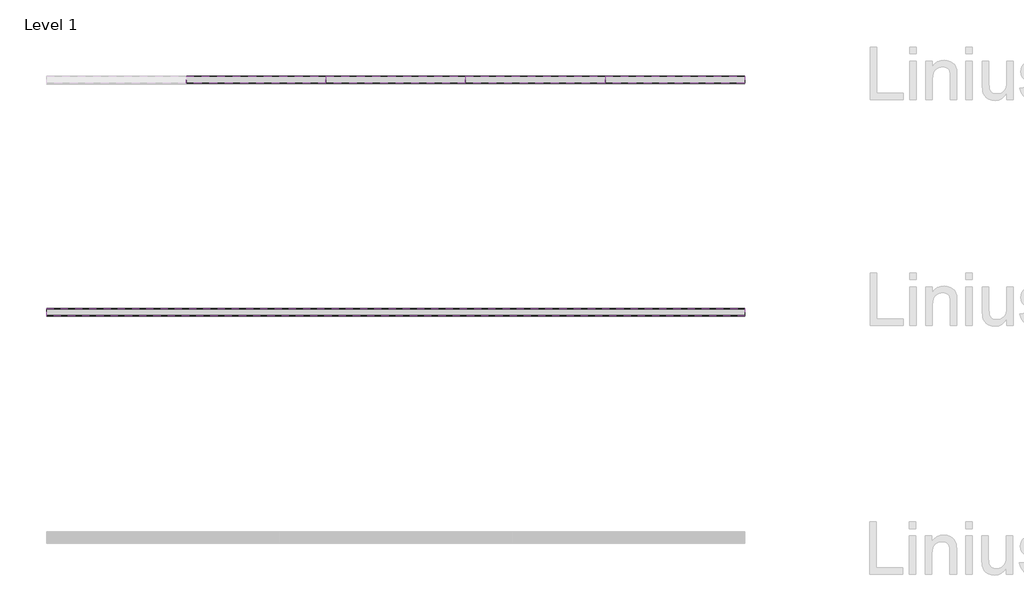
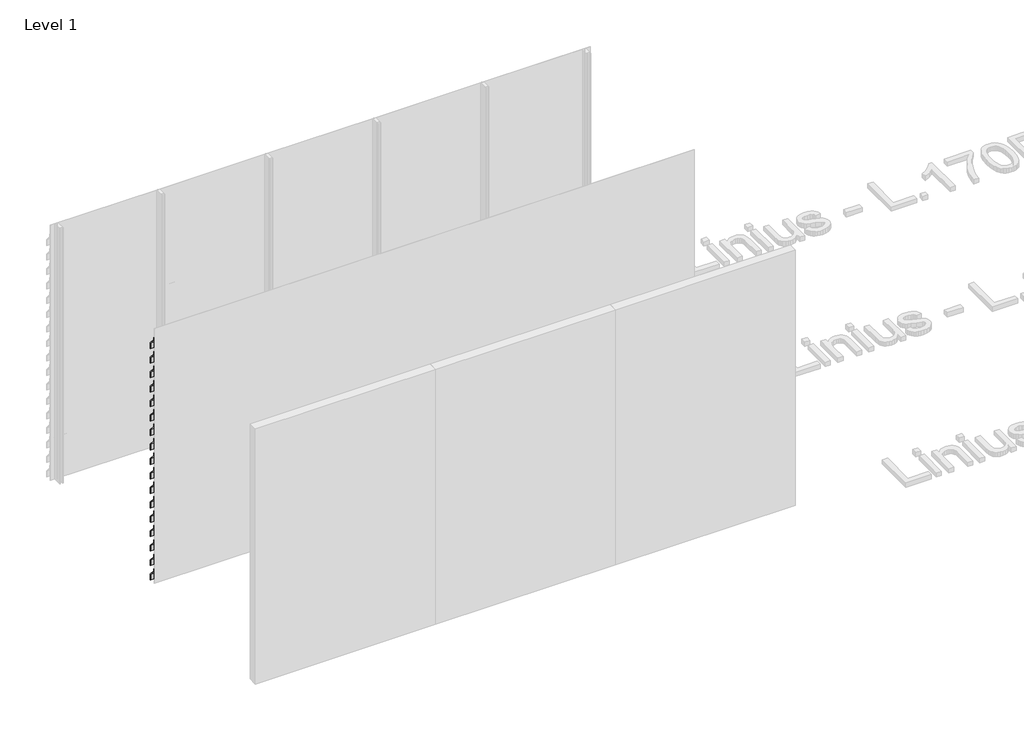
# One storey, part 86 of 121: 78 proxies.
"""IFC4 building model written with IfcOpenShell, lengths in millimetres."""

from ifc_helpers import new_model, si_unit, frame, origin, place, context, project, spatial, polyline, outline, extrude, element, save

model = new_model("IFC4")

# Units and contexts
model_context = context("Model", 3, world=origin())
ifc_project = project(units=[si_unit("LENGTHUNIT", "METRE", prefix="MILLI")], contexts=[model_context])

# Site, building, storey
site = spatial("IfcSite", under=ifc_project)
building = spatial("IfcBuilding", under=site)
storey = spatial("IfcBuildingStorey", under=building, Name="Level 1", Elevation=0.0)

# Proxies
placement = place(None, origin())
element("IfcBuildingElementProxy", 1, Name="Wall Sweeps", at=placement, inside=storey, context=model_context, shape_type="SweptSolid", body=[
    extrude(outline(polyline([(51552.5540136, 1599.0), (51552.5540136, 1530.0), (51550.5540136, 1530.9326153), (51550.5540136, 1598.2698755), (51490.0540136, 1670.0893276), (51490.0540136, 1700.0), (51492.0540136, 1700.0), (51492.0540136, 1670.8194521), (51552.5540136, 1599.0)])), frame((90666.6208099, 0.0, 0.0), z_axis=(1.0, 0.0, 0.0), x_axis=(0.0, 1.0, 0.0)), (0.0, 0.0, 1.0), 1199.9999999),
])
element("IfcBuildingElementProxy", 2, Name="Wall Sweeps", at=placement, inside=storey, context=model_context, shape_type="SweptSolid", body=[
    extrude(outline(polyline([(51552.5540136, 1429.0), (51552.5540136, 1360.0), (51550.5540136, 1360.9326153), (51550.5540136, 1428.2698755), (51490.0540136, 1500.0893276), (51490.0540136, 1530.0), (51492.0540136, 1530.0), (51492.0540136, 1500.8194521), (51552.5540136, 1429.0)])), frame((90666.6208099, 0.0, 0.0), z_axis=(1.0, 0.0, 0.0), x_axis=(0.0, 1.0, 0.0)), (0.0, 0.0, 1.0), 1199.9999999),
])
element("IfcBuildingElementProxy", 3, Name="Wall Sweeps", at=placement, inside=storey, context=model_context, shape_type="SweptSolid", body=[
    extrude(outline(polyline([(51552.5540136, 1259.0), (51552.5540136, 1190.0), (51550.5540136, 1190.9326153), (51550.5540136, 1258.2698755), (51490.0540136, 1330.0893276), (51490.0540136, 1360.0), (51492.0540136, 1360.0), (51492.0540136, 1330.8194521), (51552.5540136, 1259.0)])), frame((90666.6208099, 0.0, 0.0), z_axis=(1.0, 0.0, 0.0), x_axis=(0.0, 1.0, 0.0)), (0.0, 0.0, 1.0), 1199.9999999),
])
element("IfcBuildingElementProxy", 4, Name="Wall Sweeps", at=placement, inside=storey, context=model_context, shape_type="SweptSolid", body=[
    extrude(outline(polyline([(51552.5540136, 1089.0), (51552.5540136, 1020.0), (51550.5540136, 1020.9326153), (51550.5540136, 1088.2698755), (51490.0540136, 1160.0893276), (51490.0540136, 1190.0), (51492.0540136, 1190.0), (51492.0540136, 1160.8194521), (51552.5540136, 1089.0)])), frame((90666.6208099, 0.0, 0.0), z_axis=(1.0, 0.0, 0.0), x_axis=(0.0, 1.0, 0.0)), (0.0, 0.0, 1.0), 1199.9999999),
])
element("IfcBuildingElementProxy", 5, Name="Wall Sweeps", at=placement, inside=storey, context=model_context, shape_type="SweptSolid", body=[
    extrude(outline(polyline([(51552.5540136, 919.0), (51552.5540136, 850.0), (51550.5540136, 850.9326153), (51550.5540136, 918.2698755), (51490.0540136, 990.0893276), (51490.0540136, 1020.0), (51492.0540136, 1020.0), (51492.0540136, 990.8194521), (51552.5540136, 919.0)])), frame((90666.6208099, 0.0, 0.0), z_axis=(1.0, 0.0, 0.0), x_axis=(0.0, 1.0, 0.0)), (0.0, 0.0, 1.0), 1199.9999999),
])
element("IfcBuildingElementProxy", 6, Name="Wall Sweeps", at=placement, inside=storey, context=model_context, shape_type="SweptSolid", body=[
    extrude(outline(polyline([(51552.5540136, 749.0), (51552.5540136, 680.0), (51550.5540136, 680.9326153), (51550.5540136, 748.2698755), (51490.0540136, 820.0893276), (51490.0540136, 850.0), (51492.0540136, 850.0), (51492.0540136, 820.8194521), (51552.5540136, 749.0)])), frame((90666.6208099, 0.0, 0.0), z_axis=(1.0, 0.0, 0.0), x_axis=(0.0, 1.0, 0.0)), (0.0, 0.0, 1.0), 1199.9999999),
])
element("IfcBuildingElementProxy", 7, Name="Wall Sweeps", at=placement, inside=storey, context=model_context, shape_type="SweptSolid", body=[
    extrude(outline(polyline([(51552.5540136, 579.0), (51552.5540136, 510.0), (51550.5540136, 510.9326153), (51550.5540136, 578.2698755), (51490.0540136, 650.0893276), (51490.0540136, 680.0), (51492.0540136, 680.0), (51492.0540136, 650.8194521), (51552.5540136, 579.0)])), frame((90666.6208099, 0.0, 0.0), z_axis=(1.0, 0.0, 0.0), x_axis=(0.0, 1.0, 0.0)), (0.0, 0.0, 1.0), 1199.9999999),
])
element("IfcBuildingElementProxy", 8, Name="Wall Sweeps", at=placement, inside=storey, context=model_context, shape_type="SweptSolid", body=[
    extrude(outline(polyline([(51552.5540136, 409.0), (51552.5540136, 340.0), (51550.5540136, 340.9326153), (51550.5540136, 408.2698755), (51490.0540136, 480.0893276), (51490.0540136, 510.0), (51492.0540136, 510.0), (51492.0540136, 480.8194521), (51552.5540136, 409.0)])), frame((90666.6208099, 0.0, 0.0), z_axis=(1.0, 0.0, 0.0), x_axis=(0.0, 1.0, 0.0)), (0.0, 0.0, 1.0), 1199.9999999),
])
element("IfcBuildingElementProxy", 9, Name="Wall Sweeps", at=placement, inside=storey, context=model_context, shape_type="SweptSolid", body=[
    extrude(outline(polyline([(51552.5540136, 239.0), (51552.5540136, 170.0), (51550.5540136, 170.9326153), (51550.5540136, 238.2698755), (51490.0540136, 310.0893276), (51490.0540136, 340.0), (51492.0540136, 340.0), (51492.0540136, 310.8194521), (51552.5540136, 239.0)])), frame((90666.6208099, 0.0, 0.0), z_axis=(1.0, 0.0, 0.0), x_axis=(0.0, 1.0, 0.0)), (0.0, 0.0, 1.0), 1199.9999999),
])
element("IfcBuildingElementProxy", 10, Name="Wall Sweeps", at=placement, inside=storey, context=model_context, shape_type="SweptSolid", body=[
    extrude(outline(polyline([(51552.5540136, 69.0), (51552.5540136, 0.0), (51550.5540136, 0.9326153), (51550.5540136, 68.2698755), (51490.0540136, 140.0893276), (51490.0540136, 170.0), (51492.0540136, 170.0), (51492.0540136, 140.8194521), (51552.5540136, 69.0)])), frame((90666.6208099, 0.0, 0.0), z_axis=(1.0, 0.0, 0.0), x_axis=(0.0, 1.0, 0.0)), (0.0, 0.0, 1.0), 1199.9999999),
])
element("IfcBuildingElementProxy", 11, Name="Wall Sweeps", at=placement, inside=storey, context=model_context, shape_type="SweptSolid", body=[
    extrude(outline(polyline([(51552.5540136, 2789.0), (51552.5540136, 2720.0), (51550.5540136, 2720.9326153), (51550.5540136, 2788.2698755), (51490.0540136, 2860.0893276), (51490.0540136, 2890.0), (51492.0540136, 2890.0), (51492.0540136, 2860.8194521), (51552.5540136, 2789.0)])), frame((94266.6208095, 0.0, 0.0), z_axis=(1.0, 0.0, 0.0), x_axis=(0.0, 1.0, 0.0)), (0.0, 0.0, 1.0), 1200.0000002),
])
element("IfcBuildingElementProxy", 12, Name="Wall Sweeps", at=placement, inside=storey, context=model_context, shape_type="SweptSolid", body=[
    extrude(outline(polyline([(51552.5540136, 2619.0), (51552.5540136, 2550.0), (51550.5540136, 2550.9326153), (51550.5540136, 2618.2698755), (51490.0540136, 2690.0893276), (51490.0540136, 2720.0), (51492.0540136, 2720.0), (51492.0540136, 2690.8194521), (51552.5540136, 2619.0)])), frame((94266.6208095, 0.0, 0.0), z_axis=(1.0, 0.0, 0.0), x_axis=(0.0, 1.0, 0.0)), (0.0, 0.0, 1.0), 1200.0000002),
])
element("IfcBuildingElementProxy", 13, Name="Wall Sweeps", at=placement, inside=storey, context=model_context, shape_type="SweptSolid", body=[
    extrude(outline(polyline([(51552.5540136, 2449.0), (51552.5540136, 2380.0), (51550.5540136, 2380.9326153), (51550.5540136, 2448.2698755), (51490.0540136, 2520.0893276), (51490.0540136, 2550.0), (51492.0540136, 2550.0), (51492.0540136, 2520.8194521), (51552.5540136, 2449.0)])), frame((94266.6208095, 0.0, 0.0), z_axis=(1.0, 0.0, 0.0), x_axis=(0.0, 1.0, 0.0)), (0.0, 0.0, 1.0), 1200.0000002),
])
element("IfcBuildingElementProxy", 14, Name="Wall Sweeps", at=placement, inside=storey, context=model_context, shape_type="SweptSolid", body=[
    extrude(outline(polyline([(51552.5540136, 2279.0), (51552.5540136, 2210.0), (51550.5540136, 2210.9326153), (51550.5540136, 2278.2698755), (51490.0540136, 2350.0893276), (51490.0540136, 2380.0), (51492.0540136, 2380.0), (51492.0540136, 2350.8194521), (51552.5540136, 2279.0)])), frame((94266.6208095, 0.0, 0.0), z_axis=(1.0, 0.0, 0.0), x_axis=(0.0, 1.0, 0.0)), (0.0, 0.0, 1.0), 1200.0000002),
])
element("IfcBuildingElementProxy", 15, Name="Wall Sweeps", at=placement, inside=storey, context=model_context, shape_type="SweptSolid", body=[
    extrude(outline(polyline([(51552.5540136, 2109.0), (51552.5540136, 2040.0), (51550.5540136, 2040.9326153), (51550.5540136, 2108.2698755), (51490.0540136, 2180.0893276), (51490.0540136, 2210.0), (51492.0540136, 2210.0), (51492.0540136, 2180.8194521), (51552.5540136, 2109.0)])), frame((94266.6208095, 0.0, 0.0), z_axis=(1.0, 0.0, 0.0), x_axis=(0.0, 1.0, 0.0)), (0.0, 0.0, 1.0), 1200.0000002),
])
element("IfcBuildingElementProxy", 16, Name="Wall Sweeps", at=placement, inside=storey, context=model_context, shape_type="SweptSolid", body=[
    extrude(outline(polyline([(51552.5540136, 1939.0), (51552.5540136, 1870.0), (51550.5540136, 1870.9326153), (51550.5540136, 1938.2698755), (51490.0540136, 2010.0893276), (51490.0540136, 2040.0), (51492.0540136, 2040.0), (51492.0540136, 2010.8194521), (51552.5540136, 1939.0)])), frame((94266.6208095, 0.0, 0.0), z_axis=(1.0, 0.0, 0.0), x_axis=(0.0, 1.0, 0.0)), (0.0, 0.0, 1.0), 1200.0000002),
])
element("IfcBuildingElementProxy", 17, Name="Wall Sweeps", at=placement, inside=storey, context=model_context, shape_type="SweptSolid", body=[
    extrude(outline(polyline([(51552.5540136, 1769.0), (51552.5540136, 1700.0), (51550.5540136, 1700.9326153), (51550.5540136, 1768.2698755), (51490.0540136, 1840.0893276), (51490.0540136, 1870.0), (51492.0540136, 1870.0), (51492.0540136, 1840.8194521), (51552.5540136, 1769.0)])), frame((94266.6208095, 0.0, 0.0), z_axis=(1.0, 0.0, 0.0), x_axis=(0.0, 1.0, 0.0)), (0.0, 0.0, 1.0), 1200.0000002),
])
element("IfcBuildingElementProxy", 18, Name="Wall Sweeps", at=placement, inside=storey, context=model_context, shape_type="SweptSolid", body=[
    extrude(outline(polyline([(51552.5540136, 1599.0), (51552.5540136, 1530.0), (51550.5540136, 1530.9326153), (51550.5540136, 1598.2698755), (51490.0540136, 1670.0893276), (51490.0540136, 1700.0), (51492.0540136, 1700.0), (51492.0540136, 1670.8194521), (51552.5540136, 1599.0)])), frame((94266.6208095, 0.0, 0.0), z_axis=(1.0, 0.0, 0.0), x_axis=(0.0, 1.0, 0.0)), (0.0, 0.0, 1.0), 1200.0000002),
])
element("IfcBuildingElementProxy", 19, Name="Wall Sweeps", at=placement, inside=storey, context=model_context, shape_type="SweptSolid", body=[
    extrude(outline(polyline([(51552.5540136, 1429.0), (51552.5540136, 1360.0), (51550.5540136, 1360.9326153), (51550.5540136, 1428.2698755), (51490.0540136, 1500.0893276), (51490.0540136, 1530.0), (51492.0540136, 1530.0), (51492.0540136, 1500.8194521), (51552.5540136, 1429.0)])), frame((94266.6208095, 0.0, 0.0), z_axis=(1.0, 0.0, 0.0), x_axis=(0.0, 1.0, 0.0)), (0.0, 0.0, 1.0), 1200.0000002),
])
element("IfcBuildingElementProxy", 20, Name="Wall Sweeps", at=placement, inside=storey, context=model_context, shape_type="SweptSolid", body=[
    extrude(outline(polyline([(51552.5540136, 1259.0), (51552.5540136, 1190.0), (51550.5540136, 1190.9326153), (51550.5540136, 1258.2698755), (51490.0540136, 1330.0893276), (51490.0540136, 1360.0), (51492.0540136, 1360.0), (51492.0540136, 1330.8194521), (51552.5540136, 1259.0)])), frame((94266.6208095, 0.0, 0.0), z_axis=(1.0, 0.0, 0.0), x_axis=(0.0, 1.0, 0.0)), (0.0, 0.0, 1.0), 1200.0000002),
])
element("IfcBuildingElementProxy", 21, Name="Wall Sweeps", at=placement, inside=storey, context=model_context, shape_type="SweptSolid", body=[
    extrude(outline(polyline([(51552.5540136, 1089.0), (51552.5540136, 1020.0), (51550.5540136, 1020.9326153), (51550.5540136, 1088.2698755), (51490.0540136, 1160.0893276), (51490.0540136, 1190.0), (51492.0540136, 1190.0), (51492.0540136, 1160.8194521), (51552.5540136, 1089.0)])), frame((94266.6208095, 0.0, 0.0), z_axis=(1.0, 0.0, 0.0), x_axis=(0.0, 1.0, 0.0)), (0.0, 0.0, 1.0), 1200.0000002),
])
element("IfcBuildingElementProxy", 22, Name="Wall Sweeps", at=placement, inside=storey, context=model_context, shape_type="SweptSolid", body=[
    extrude(outline(polyline([(51552.5540136, 919.0), (51552.5540136, 850.0), (51550.5540136, 850.9326153), (51550.5540136, 918.2698755), (51490.0540136, 990.0893276), (51490.0540136, 1020.0), (51492.0540136, 1020.0), (51492.0540136, 990.8194521), (51552.5540136, 919.0)])), frame((94266.6208095, 0.0, 0.0), z_axis=(1.0, 0.0, 0.0), x_axis=(0.0, 1.0, 0.0)), (0.0, 0.0, 1.0), 1200.0000002),
])
element("IfcBuildingElementProxy", 23, Name="Wall Sweeps", at=placement, inside=storey, context=model_context, shape_type="SweptSolid", body=[
    extrude(outline(polyline([(51552.5540136, 749.0), (51552.5540136, 680.0), (51550.5540136, 680.9326153), (51550.5540136, 748.2698755), (51490.0540136, 820.0893276), (51490.0540136, 850.0), (51492.0540136, 850.0), (51492.0540136, 820.8194521), (51552.5540136, 749.0)])), frame((94266.6208095, 0.0, 0.0), z_axis=(1.0, 0.0, 0.0), x_axis=(0.0, 1.0, 0.0)), (0.0, 0.0, 1.0), 1200.0000002),
])
element("IfcBuildingElementProxy", 24, Name="Wall Sweeps", at=placement, inside=storey, context=model_context, shape_type="SweptSolid", body=[
    extrude(outline(polyline([(51552.5540136, 579.0), (51552.5540136, 510.0), (51550.5540136, 510.9326153), (51550.5540136, 578.2698755), (51490.0540136, 650.0893276), (51490.0540136, 680.0), (51492.0540136, 680.0), (51492.0540136, 650.8194521), (51552.5540136, 579.0)])), frame((94266.6208095, 0.0, 0.0), z_axis=(1.0, 0.0, 0.0), x_axis=(0.0, 1.0, 0.0)), (0.0, 0.0, 1.0), 1200.0000002),
])
element("IfcBuildingElementProxy", 25, Name="Wall Sweeps", at=placement, inside=storey, context=model_context, shape_type="SweptSolid", body=[
    extrude(outline(polyline([(51552.5540136, 409.0), (51552.5540136, 340.0), (51550.5540136, 340.9326153), (51550.5540136, 408.2698755), (51490.0540136, 480.0893276), (51490.0540136, 510.0), (51492.0540136, 510.0), (51492.0540136, 480.8194521), (51552.5540136, 409.0)])), frame((94266.6208095, 0.0, 0.0), z_axis=(1.0, 0.0, 0.0), x_axis=(0.0, 1.0, 0.0)), (0.0, 0.0, 1.0), 1200.0000002),
])
element("IfcBuildingElementProxy", 26, Name="Wall Sweeps", at=placement, inside=storey, context=model_context, shape_type="SweptSolid", body=[
    extrude(outline(polyline([(51552.5540136, 239.0), (51552.5540136, 170.0), (51550.5540136, 170.9326153), (51550.5540136, 238.2698755), (51490.0540136, 310.0893276), (51490.0540136, 340.0), (51492.0540136, 340.0), (51492.0540136, 310.8194521), (51552.5540136, 239.0)])), frame((94266.6208095, 0.0, 0.0), z_axis=(1.0, 0.0, 0.0), x_axis=(0.0, 1.0, 0.0)), (0.0, 0.0, 1.0), 1200.0000002),
])
element("IfcBuildingElementProxy", 27, Name="Wall Sweeps", at=placement, inside=storey, context=model_context, shape_type="SweptSolid", body=[
    extrude(outline(polyline([(51552.5540136, 69.0), (51552.5540136, 0.0), (51550.5540136, 0.9326153), (51550.5540136, 68.2698755), (51490.0540136, 140.0893276), (51490.0540136, 170.0), (51492.0540136, 170.0), (51492.0540136, 140.8194521), (51552.5540136, 69.0)])), frame((94266.6208095, 0.0, 0.0), z_axis=(1.0, 0.0, 0.0), x_axis=(0.0, 1.0, 0.0)), (0.0, 0.0, 1.0), 1200.0000002),
])
element("IfcBuildingElementProxy", 28, Name="Wall Sweeps", at=placement, inside=storey, context=model_context, shape_type="SweptSolid", body=[
    extrude(outline(polyline([(49552.5540136, 2789.0), (49552.5540136, 2720.0), (49550.5540136, 2720.9326153), (49550.5540136, 2788.2698755), (49490.0540136, 2860.0893276), (49490.0540136, 2890.0), (49492.0540136, 2890.0), (49492.0540136, 2860.8194521), (49552.5540136, 2789.0)])), frame((89466.6208097, 0.0, 0.0), z_axis=(1.0, 0.0, 0.0), x_axis=(0.0, 1.0, 0.0)), (0.0, 0.0, 1.0), 6000.0),
])
element("IfcBuildingElementProxy", 29, Name="Wall Sweeps", at=placement, inside=storey, context=model_context, shape_type="SweptSolid", body=[
    extrude(outline(polyline([(49552.5540136, 2619.0), (49552.5540136, 2550.0), (49550.5540136, 2550.9326153), (49550.5540136, 2618.2698755), (49490.0540136, 2690.0893276), (49490.0540136, 2720.0), (49492.0540136, 2720.0), (49492.0540136, 2690.8194521), (49552.5540136, 2619.0)])), frame((89466.6208097, 0.0, 0.0), z_axis=(1.0, 0.0, 0.0), x_axis=(0.0, 1.0, 0.0)), (0.0, 0.0, 1.0), 6000.0),
])
element("IfcBuildingElementProxy", 30, Name="Wall Sweeps", at=placement, inside=storey, context=model_context, shape_type="SweptSolid", body=[
    extrude(outline(polyline([(49552.5540136, 2449.0), (49552.5540136, 2380.0), (49550.5540136, 2380.9326153), (49550.5540136, 2448.2698755), (49490.0540136, 2520.0893276), (49490.0540136, 2550.0), (49492.0540136, 2550.0), (49492.0540136, 2520.8194521), (49552.5540136, 2449.0)])), frame((89466.6208097, 0.0, 0.0), z_axis=(1.0, 0.0, 0.0), x_axis=(0.0, 1.0, 0.0)), (0.0, 0.0, 1.0), 6000.0),
])
element("IfcBuildingElementProxy", 31, Name="Wall Sweeps", at=placement, inside=storey, context=model_context, shape_type="SweptSolid", body=[
    extrude(outline(polyline([(49552.5540136, 2279.0), (49552.5540136, 2210.0), (49550.5540136, 2210.9326153), (49550.5540136, 2278.2698755), (49490.0540136, 2350.0893276), (49490.0540136, 2380.0), (49492.0540136, 2380.0), (49492.0540136, 2350.8194521), (49552.5540136, 2279.0)])), frame((89466.6208097, 0.0, 0.0), z_axis=(1.0, 0.0, 0.0), x_axis=(0.0, 1.0, 0.0)), (0.0, 0.0, 1.0), 6000.0),
])
element("IfcBuildingElementProxy", 32, Name="Wall Sweeps", at=placement, inside=storey, context=model_context, shape_type="SweptSolid", body=[
    extrude(outline(polyline([(49552.5540136, 2109.0), (49552.5540136, 2040.0), (49550.5540136, 2040.9326153), (49550.5540136, 2108.2698755), (49490.0540136, 2180.0893276), (49490.0540136, 2210.0), (49492.0540136, 2210.0), (49492.0540136, 2180.8194521), (49552.5540136, 2109.0)])), frame((89466.6208097, 0.0, 0.0), z_axis=(1.0, 0.0, 0.0), x_axis=(0.0, 1.0, 0.0)), (0.0, 0.0, 1.0), 6000.0),
])
element("IfcBuildingElementProxy", 33, Name="Wall Sweeps", at=placement, inside=storey, context=model_context, shape_type="SweptSolid", body=[
    extrude(outline(polyline([(49552.5540136, 1939.0), (49552.5540136, 1870.0), (49550.5540136, 1870.9326153), (49550.5540136, 1938.2698755), (49490.0540136, 2010.0893276), (49490.0540136, 2040.0), (49492.0540136, 2040.0), (49492.0540136, 2010.8194521), (49552.5540136, 1939.0)])), frame((89466.6208097, 0.0, 0.0), z_axis=(1.0, 0.0, 0.0), x_axis=(0.0, 1.0, 0.0)), (0.0, 0.0, 1.0), 6000.0),
])
element("IfcBuildingElementProxy", 34, Name="Wall Sweeps", at=placement, inside=storey, context=model_context, shape_type="SweptSolid", body=[
    extrude(outline(polyline([(49552.5540136, 1769.0), (49552.5540136, 1700.0), (49550.5540136, 1700.9326153), (49550.5540136, 1768.2698755), (49490.0540136, 1840.0893276), (49490.0540136, 1870.0), (49492.0540136, 1870.0), (49492.0540136, 1840.8194521), (49552.5540136, 1769.0)])), frame((89466.6208097, 0.0, 0.0), z_axis=(1.0, 0.0, 0.0), x_axis=(0.0, 1.0, 0.0)), (0.0, 0.0, 1.0), 6000.0),
])
element("IfcBuildingElementProxy", 35, Name="Wall Sweeps", at=placement, inside=storey, context=model_context, shape_type="SweptSolid", body=[
    extrude(outline(polyline([(49552.5540136, 1599.0), (49552.5540136, 1530.0), (49550.5540136, 1530.9326153), (49550.5540136, 1598.2698755), (49490.0540136, 1670.0893276), (49490.0540136, 1700.0), (49492.0540136, 1700.0), (49492.0540136, 1670.8194521), (49552.5540136, 1599.0)])), frame((89466.6208097, 0.0, 0.0), z_axis=(1.0, 0.0, 0.0), x_axis=(0.0, 1.0, 0.0)), (0.0, 0.0, 1.0), 6000.0),
])
element("IfcBuildingElementProxy", 36, Name="Wall Sweeps", at=placement, inside=storey, context=model_context, shape_type="SweptSolid", body=[
    extrude(outline(polyline([(49552.5540136, 1429.0), (49552.5540136, 1360.0), (49550.5540136, 1360.9326153), (49550.5540136, 1428.2698755), (49490.0540136, 1500.0893276), (49490.0540136, 1530.0), (49492.0540136, 1530.0), (49492.0540136, 1500.8194521), (49552.5540136, 1429.0)])), frame((89466.6208097, 0.0, 0.0), z_axis=(1.0, 0.0, 0.0), x_axis=(0.0, 1.0, 0.0)), (0.0, 0.0, 1.0), 6000.0),
])
element("IfcBuildingElementProxy", 37, Name="Wall Sweeps", at=placement, inside=storey, context=model_context, shape_type="SweptSolid", body=[
    extrude(outline(polyline([(49552.5540136, 1259.0), (49552.5540136, 1190.0), (49550.5540136, 1190.9326153), (49550.5540136, 1258.2698755), (49490.0540136, 1330.0893276), (49490.0540136, 1360.0), (49492.0540136, 1360.0), (49492.0540136, 1330.8194521), (49552.5540136, 1259.0)])), frame((89466.6208097, 0.0, 0.0), z_axis=(1.0, 0.0, 0.0), x_axis=(0.0, 1.0, 0.0)), (0.0, 0.0, 1.0), 6000.0),
])
element("IfcBuildingElementProxy", 38, Name="Wall Sweeps", at=placement, inside=storey, context=model_context, shape_type="SweptSolid", body=[
    extrude(outline(polyline([(49552.5540136, 1089.0), (49552.5540136, 1020.0), (49550.5540136, 1020.9326153), (49550.5540136, 1088.2698755), (49490.0540136, 1160.0893276), (49490.0540136, 1190.0), (49492.0540136, 1190.0), (49492.0540136, 1160.8194521), (49552.5540136, 1089.0)])), frame((89466.6208097, 0.0, 0.0), z_axis=(1.0, 0.0, 0.0), x_axis=(0.0, 1.0, 0.0)), (0.0, 0.0, 1.0), 6000.0),
])
element("IfcBuildingElementProxy", 39, Name="Wall Sweeps", at=placement, inside=storey, context=model_context, shape_type="SweptSolid", body=[
    extrude(outline(polyline([(49552.5540136, 919.0), (49552.5540136, 850.0), (49550.5540136, 850.9326153), (49550.5540136, 918.2698755), (49490.0540136, 990.0893276), (49490.0540136, 1020.0), (49492.0540136, 1020.0), (49492.0540136, 990.8194521), (49552.5540136, 919.0)])), frame((89466.6208097, 0.0, 0.0), z_axis=(1.0, 0.0, 0.0), x_axis=(0.0, 1.0, 0.0)), (0.0, 0.0, 1.0), 6000.0),
])
element("IfcBuildingElementProxy", 40, Name="Wall Sweeps", at=placement, inside=storey, context=model_context, shape_type="SweptSolid", body=[
    extrude(outline(polyline([(49552.5540136, 749.0), (49552.5540136, 680.0), (49550.5540136, 680.9326153), (49550.5540136, 748.2698755), (49490.0540136, 820.0893276), (49490.0540136, 850.0), (49492.0540136, 850.0), (49492.0540136, 820.8194521), (49552.5540136, 749.0)])), frame((89466.6208097, 0.0, 0.0), z_axis=(1.0, 0.0, 0.0), x_axis=(0.0, 1.0, 0.0)), (0.0, 0.0, 1.0), 6000.0),
])
element("IfcBuildingElementProxy", 41, Name="Wall Sweeps", at=placement, inside=storey, context=model_context, shape_type="SweptSolid", body=[
    extrude(outline(polyline([(49552.5540136, 579.0), (49552.5540136, 510.0), (49550.5540136, 510.9326153), (49550.5540136, 578.2698755), (49490.0540136, 650.0893276), (49490.0540136, 680.0), (49492.0540136, 680.0), (49492.0540136, 650.8194521), (49552.5540136, 579.0)])), frame((89466.6208097, 0.0, 0.0), z_axis=(1.0, 0.0, 0.0), x_axis=(0.0, 1.0, 0.0)), (0.0, 0.0, 1.0), 6000.0),
])
element("IfcBuildingElementProxy", 42, Name="Wall Sweeps", at=placement, inside=storey, context=model_context, shape_type="SweptSolid", body=[
    extrude(outline(polyline([(49552.5540136, 409.0), (49552.5540136, 340.0), (49550.5540136, 340.9326153), (49550.5540136, 408.2698755), (49490.0540136, 480.0893276), (49490.0540136, 510.0), (49492.0540136, 510.0), (49492.0540136, 480.8194521), (49552.5540136, 409.0)])), frame((89466.6208097, 0.0, 0.0), z_axis=(1.0, 0.0, 0.0), x_axis=(0.0, 1.0, 0.0)), (0.0, 0.0, 1.0), 6000.0),
])
element("IfcBuildingElementProxy", 43, Name="Wall Sweeps", at=placement, inside=storey, context=model_context, shape_type="SweptSolid", body=[
    extrude(outline(polyline([(49552.5540136, 239.0), (49552.5540136, 170.0), (49550.5540136, 170.9326153), (49550.5540136, 238.2698755), (49490.0540136, 310.0893276), (49490.0540136, 340.0), (49492.0540136, 340.0), (49492.0540136, 310.8194521), (49552.5540136, 239.0)])), frame((89466.6208097, 0.0, 0.0), z_axis=(1.0, 0.0, 0.0), x_axis=(0.0, 1.0, 0.0)), (0.0, 0.0, 1.0), 6000.0),
])
element("IfcBuildingElementProxy", 44, Name="Wall Sweeps", at=placement, inside=storey, context=model_context, shape_type="SweptSolid", body=[
    extrude(outline(polyline([(49552.5540136, 69.0), (49552.5540136, 0.0), (49550.5540136, 0.9326153), (49550.5540136, 68.2698755), (49490.0540136, 140.0893276), (49490.0540136, 170.0), (49492.0540136, 170.0), (49492.0540136, 140.8194521), (49552.5540136, 69.0)])), frame((89466.6208097, 0.0, 0.0), z_axis=(1.0, 0.0, 0.0), x_axis=(0.0, 1.0, 0.0)), (0.0, 0.0, 1.0), 6000.0),
])
element("IfcBuildingElementProxy", 45, Name="Wall Sweeps", at=placement, inside=storey, context=model_context, shape_type="SweptSolid", body=[
    extrude(outline(polyline([(51552.5540136, 2789.0), (51552.5540136, 2720.0), (51550.5540136, 2720.9326153), (51550.5540136, 2788.2698755), (51490.0540136, 2860.0893276), (51490.0540136, 2890.0), (51492.0540136, 2890.0), (51492.0540136, 2860.8194521), (51552.5540136, 2789.0)])), frame((91866.6208097, 0.0, 0.0), z_axis=(1.0, 0.0, 0.0), x_axis=(0.0, 1.0, 0.0)), (0.0, 0.0, 1.0), 1199.9999999),
])
element("IfcBuildingElementProxy", 46, Name="Wall Sweeps", at=placement, inside=storey, context=model_context, shape_type="SweptSolid", body=[
    extrude(outline(polyline([(51552.5540136, 2619.0), (51552.5540136, 2550.0), (51550.5540136, 2550.9326153), (51550.5540136, 2618.2698755), (51490.0540136, 2690.0893276), (51490.0540136, 2720.0), (51492.0540136, 2720.0), (51492.0540136, 2690.8194521), (51552.5540136, 2619.0)])), frame((91866.6208097, 0.0, 0.0), z_axis=(1.0, 0.0, 0.0), x_axis=(0.0, 1.0, 0.0)), (0.0, 0.0, 1.0), 1199.9999999),
])
element("IfcBuildingElementProxy", 47, Name="Wall Sweeps", at=placement, inside=storey, context=model_context, shape_type="SweptSolid", body=[
    extrude(outline(polyline([(51552.5540136, 2449.0), (51552.5540136, 2380.0), (51550.5540136, 2380.9326153), (51550.5540136, 2448.2698755), (51490.0540136, 2520.0893276), (51490.0540136, 2550.0), (51492.0540136, 2550.0), (51492.0540136, 2520.8194521), (51552.5540136, 2449.0)])), frame((91866.6208097, 0.0, 0.0), z_axis=(1.0, 0.0, 0.0), x_axis=(0.0, 1.0, 0.0)), (0.0, 0.0, 1.0), 1199.9999999),
])
element("IfcBuildingElementProxy", 48, Name="Wall Sweeps", at=placement, inside=storey, context=model_context, shape_type="SweptSolid", body=[
    extrude(outline(polyline([(51552.5540136, 2279.0), (51552.5540136, 2210.0), (51550.5540136, 2210.9326153), (51550.5540136, 2278.2698755), (51490.0540136, 2350.0893276), (51490.0540136, 2380.0), (51492.0540136, 2380.0), (51492.0540136, 2350.8194521), (51552.5540136, 2279.0)])), frame((91866.6208097, 0.0, 0.0), z_axis=(1.0, 0.0, 0.0), x_axis=(0.0, 1.0, 0.0)), (0.0, 0.0, 1.0), 1199.9999999),
])
element("IfcBuildingElementProxy", 49, Name="Wall Sweeps", at=placement, inside=storey, context=model_context, shape_type="SweptSolid", body=[
    extrude(outline(polyline([(51552.5540136, 2109.0), (51552.5540136, 2040.0), (51550.5540136, 2040.9326153), (51550.5540136, 2108.2698755), (51490.0540136, 2180.0893276), (51490.0540136, 2210.0), (51492.0540136, 2210.0), (51492.0540136, 2180.8194521), (51552.5540136, 2109.0)])), frame((91866.6208097, 0.0, 0.0), z_axis=(1.0, 0.0, 0.0), x_axis=(0.0, 1.0, 0.0)), (0.0, 0.0, 1.0), 1199.9999999),
])
element("IfcBuildingElementProxy", 50, Name="Wall Sweeps", at=placement, inside=storey, context=model_context, shape_type="SweptSolid", body=[
    extrude(outline(polyline([(51552.5540136, 1939.0), (51552.5540136, 1870.0), (51550.5540136, 1870.9326153), (51550.5540136, 1938.2698755), (51490.0540136, 2010.0893276), (51490.0540136, 2040.0), (51492.0540136, 2040.0), (51492.0540136, 2010.8194521), (51552.5540136, 1939.0)])), frame((91866.6208097, 0.0, 0.0), z_axis=(1.0, 0.0, 0.0), x_axis=(0.0, 1.0, 0.0)), (0.0, 0.0, 1.0), 1199.9999999),
])
element("IfcBuildingElementProxy", 51, Name="Wall Sweeps", at=placement, inside=storey, context=model_context, shape_type="SweptSolid", body=[
    extrude(outline(polyline([(51552.5540136, 1769.0), (51552.5540136, 1700.0), (51550.5540136, 1700.9326153), (51550.5540136, 1768.2698755), (51490.0540136, 1840.0893276), (51490.0540136, 1870.0), (51492.0540136, 1870.0), (51492.0540136, 1840.8194521), (51552.5540136, 1769.0)])), frame((91866.6208097, 0.0, 0.0), z_axis=(1.0, 0.0, 0.0), x_axis=(0.0, 1.0, 0.0)), (0.0, 0.0, 1.0), 1199.9999999),
])
element("IfcBuildingElementProxy", 52, Name="Wall Sweeps", at=placement, inside=storey, context=model_context, shape_type="SweptSolid", body=[
    extrude(outline(polyline([(51552.5540136, 1599.0), (51552.5540136, 1530.0), (51550.5540136, 1530.9326153), (51550.5540136, 1598.2698755), (51490.0540136, 1670.0893276), (51490.0540136, 1700.0), (51492.0540136, 1700.0), (51492.0540136, 1670.8194521), (51552.5540136, 1599.0)])), frame((91866.6208097, 0.0, 0.0), z_axis=(1.0, 0.0, 0.0), x_axis=(0.0, 1.0, 0.0)), (0.0, 0.0, 1.0), 1199.9999999),
])
element("IfcBuildingElementProxy", 53, Name="Wall Sweeps", at=placement, inside=storey, context=model_context, shape_type="SweptSolid", body=[
    extrude(outline(polyline([(51552.5540136, 1429.0), (51552.5540136, 1360.0), (51550.5540136, 1360.9326153), (51550.5540136, 1428.2698755), (51490.0540136, 1500.0893276), (51490.0540136, 1530.0), (51492.0540136, 1530.0), (51492.0540136, 1500.8194521), (51552.5540136, 1429.0)])), frame((91866.6208097, 0.0, 0.0), z_axis=(1.0, 0.0, 0.0), x_axis=(0.0, 1.0, 0.0)), (0.0, 0.0, 1.0), 1199.9999999),
])
element("IfcBuildingElementProxy", 54, Name="Wall Sweeps", at=placement, inside=storey, context=model_context, shape_type="SweptSolid", body=[
    extrude(outline(polyline([(51552.5540136, 1259.0), (51552.5540136, 1190.0), (51550.5540136, 1190.9326153), (51550.5540136, 1258.2698755), (51490.0540136, 1330.0893276), (51490.0540136, 1360.0), (51492.0540136, 1360.0), (51492.0540136, 1330.8194521), (51552.5540136, 1259.0)])), frame((91866.6208097, 0.0, 0.0), z_axis=(1.0, 0.0, 0.0), x_axis=(0.0, 1.0, 0.0)), (0.0, 0.0, 1.0), 1199.9999999),
])
element("IfcBuildingElementProxy", 55, Name="Wall Sweeps", at=placement, inside=storey, context=model_context, shape_type="SweptSolid", body=[
    extrude(outline(polyline([(51552.5540136, 1089.0), (51552.5540136, 1020.0), (51550.5540136, 1020.9326153), (51550.5540136, 1088.2698755), (51490.0540136, 1160.0893276), (51490.0540136, 1190.0), (51492.0540136, 1190.0), (51492.0540136, 1160.8194521), (51552.5540136, 1089.0)])), frame((91866.6208097, 0.0, 0.0), z_axis=(1.0, 0.0, 0.0), x_axis=(0.0, 1.0, 0.0)), (0.0, 0.0, 1.0), 1199.9999999),
])
element("IfcBuildingElementProxy", 56, Name="Wall Sweeps", at=placement, inside=storey, context=model_context, shape_type="SweptSolid", body=[
    extrude(outline(polyline([(51552.5540136, 919.0), (51552.5540136, 850.0), (51550.5540136, 850.9326153), (51550.5540136, 918.2698755), (51490.0540136, 990.0893276), (51490.0540136, 1020.0), (51492.0540136, 1020.0), (51492.0540136, 990.8194521), (51552.5540136, 919.0)])), frame((91866.6208097, 0.0, 0.0), z_axis=(1.0, 0.0, 0.0), x_axis=(0.0, 1.0, 0.0)), (0.0, 0.0, 1.0), 1199.9999999),
])
element("IfcBuildingElementProxy", 57, Name="Wall Sweeps", at=placement, inside=storey, context=model_context, shape_type="SweptSolid", body=[
    extrude(outline(polyline([(51552.5540136, 749.0), (51552.5540136, 680.0), (51550.5540136, 680.9326153), (51550.5540136, 748.2698755), (51490.0540136, 820.0893276), (51490.0540136, 850.0), (51492.0540136, 850.0), (51492.0540136, 820.8194521), (51552.5540136, 749.0)])), frame((91866.6208097, 0.0, 0.0), z_axis=(1.0, 0.0, 0.0), x_axis=(0.0, 1.0, 0.0)), (0.0, 0.0, 1.0), 1199.9999999),
])
element("IfcBuildingElementProxy", 58, Name="Wall Sweeps", at=placement, inside=storey, context=model_context, shape_type="SweptSolid", body=[
    extrude(outline(polyline([(51552.5540136, 579.0), (51552.5540136, 510.0), (51550.5540136, 510.9326153), (51550.5540136, 578.2698755), (51490.0540136, 650.0893276), (51490.0540136, 680.0), (51492.0540136, 680.0), (51492.0540136, 650.8194521), (51552.5540136, 579.0)])), frame((91866.6208097, 0.0, 0.0), z_axis=(1.0, 0.0, 0.0), x_axis=(0.0, 1.0, 0.0)), (0.0, 0.0, 1.0), 1199.9999999),
])
element("IfcBuildingElementProxy", 59, Name="Wall Sweeps", at=placement, inside=storey, context=model_context, shape_type="SweptSolid", body=[
    extrude(outline(polyline([(51552.5540136, 409.0), (51552.5540136, 340.0), (51550.5540136, 340.9326153), (51550.5540136, 408.2698755), (51490.0540136, 480.0893276), (51490.0540136, 510.0), (51492.0540136, 510.0), (51492.0540136, 480.8194521), (51552.5540136, 409.0)])), frame((91866.6208097, 0.0, 0.0), z_axis=(1.0, 0.0, 0.0), x_axis=(0.0, 1.0, 0.0)), (0.0, 0.0, 1.0), 1199.9999999),
])
element("IfcBuildingElementProxy", 60, Name="Wall Sweeps", at=placement, inside=storey, context=model_context, shape_type="SweptSolid", body=[
    extrude(outline(polyline([(51552.5540136, 239.0), (51552.5540136, 170.0), (51550.5540136, 170.9326153), (51550.5540136, 238.2698755), (51490.0540136, 310.0893276), (51490.0540136, 340.0), (51492.0540136, 340.0), (51492.0540136, 310.8194521), (51552.5540136, 239.0)])), frame((91866.6208097, 0.0, 0.0), z_axis=(1.0, 0.0, 0.0), x_axis=(0.0, 1.0, 0.0)), (0.0, 0.0, 1.0), 1199.9999999),
])
element("IfcBuildingElementProxy", 61, Name="Wall Sweeps", at=placement, inside=storey, context=model_context, shape_type="SweptSolid", body=[
    extrude(outline(polyline([(51552.5540136, 69.0), (51552.5540136, 0.0), (51550.5540136, 0.9326153), (51550.5540136, 68.2698755), (51490.0540136, 140.0893276), (51490.0540136, 170.0), (51492.0540136, 170.0), (51492.0540136, 140.8194521), (51552.5540136, 69.0)])), frame((91866.6208097, 0.0, 0.0), z_axis=(1.0, 0.0, 0.0), x_axis=(0.0, 1.0, 0.0)), (0.0, 0.0, 1.0), 1199.9999999),
])
element("IfcBuildingElementProxy", 62, Name="Wall Sweeps", at=placement, inside=storey, context=model_context, shape_type="SweptSolid", body=[
    extrude(outline(polyline([(51552.5540136, 2789.0), (51552.5540136, 2720.0), (51550.5540136, 2720.9326153), (51550.5540136, 2788.2698755), (51490.0540136, 2860.0893276), (51490.0540136, 2890.0), (51492.0540136, 2890.0), (51492.0540136, 2860.8194521), (51552.5540136, 2789.0)])), frame((93066.6208096, 0.0, 0.0), z_axis=(1.0, 0.0, 0.0), x_axis=(0.0, 1.0, 0.0)), (0.0, 0.0, 1.0), 1199.9999999),
])
element("IfcBuildingElementProxy", 63, Name="Wall Sweeps", at=placement, inside=storey, context=model_context, shape_type="SweptSolid", body=[
    extrude(outline(polyline([(51552.5540136, 2619.0), (51552.5540136, 2550.0), (51550.5540136, 2550.9326153), (51550.5540136, 2618.2698755), (51490.0540136, 2690.0893276), (51490.0540136, 2720.0), (51492.0540136, 2720.0), (51492.0540136, 2690.8194521), (51552.5540136, 2619.0)])), frame((93066.6208096, 0.0, 0.0), z_axis=(1.0, 0.0, 0.0), x_axis=(0.0, 1.0, 0.0)), (0.0, 0.0, 1.0), 1199.9999999),
])
element("IfcBuildingElementProxy", 64, Name="Wall Sweeps", at=placement, inside=storey, context=model_context, shape_type="SweptSolid", body=[
    extrude(outline(polyline([(51552.5540136, 2449.0), (51552.5540136, 2380.0), (51550.5540136, 2380.9326153), (51550.5540136, 2448.2698755), (51490.0540136, 2520.0893276), (51490.0540136, 2550.0), (51492.0540136, 2550.0), (51492.0540136, 2520.8194521), (51552.5540136, 2449.0)])), frame((93066.6208096, 0.0, 0.0), z_axis=(1.0, 0.0, 0.0), x_axis=(0.0, 1.0, 0.0)), (0.0, 0.0, 1.0), 1199.9999999),
])
element("IfcBuildingElementProxy", 65, Name="Wall Sweeps", at=placement, inside=storey, context=model_context, shape_type="SweptSolid", body=[
    extrude(outline(polyline([(51552.5540136, 2279.0), (51552.5540136, 2210.0), (51550.5540136, 2210.9326153), (51550.5540136, 2278.2698755), (51490.0540136, 2350.0893276), (51490.0540136, 2380.0), (51492.0540136, 2380.0), (51492.0540136, 2350.8194521), (51552.5540136, 2279.0)])), frame((93066.6208096, 0.0, 0.0), z_axis=(1.0, 0.0, 0.0), x_axis=(0.0, 1.0, 0.0)), (0.0, 0.0, 1.0), 1199.9999999),
])
element("IfcBuildingElementProxy", 66, Name="Wall Sweeps", at=placement, inside=storey, context=model_context, shape_type="SweptSolid", body=[
    extrude(outline(polyline([(51552.5540136, 2109.0), (51552.5540136, 2040.0), (51550.5540136, 2040.9326153), (51550.5540136, 2108.2698755), (51490.0540136, 2180.0893276), (51490.0540136, 2210.0), (51492.0540136, 2210.0), (51492.0540136, 2180.8194521), (51552.5540136, 2109.0)])), frame((93066.6208096, 0.0, 0.0), z_axis=(1.0, 0.0, 0.0), x_axis=(0.0, 1.0, 0.0)), (0.0, 0.0, 1.0), 1199.9999999),
])
element("IfcBuildingElementProxy", 67, Name="Wall Sweeps", at=placement, inside=storey, context=model_context, shape_type="SweptSolid", body=[
    extrude(outline(polyline([(51552.5540136, 1939.0), (51552.5540136, 1870.0), (51550.5540136, 1870.9326153), (51550.5540136, 1938.2698755), (51490.0540136, 2010.0893276), (51490.0540136, 2040.0), (51492.0540136, 2040.0), (51492.0540136, 2010.8194521), (51552.5540136, 1939.0)])), frame((93066.6208096, 0.0, 0.0), z_axis=(1.0, 0.0, 0.0), x_axis=(0.0, 1.0, 0.0)), (0.0, 0.0, 1.0), 1199.9999999),
])
element("IfcBuildingElementProxy", 68, Name="Wall Sweeps", at=placement, inside=storey, context=model_context, shape_type="SweptSolid", body=[
    extrude(outline(polyline([(51552.5540136, 1769.0), (51552.5540136, 1700.0), (51550.5540136, 1700.9326153), (51550.5540136, 1768.2698755), (51490.0540136, 1840.0893276), (51490.0540136, 1870.0), (51492.0540136, 1870.0), (51492.0540136, 1840.8194521), (51552.5540136, 1769.0)])), frame((93066.6208096, 0.0, 0.0), z_axis=(1.0, 0.0, 0.0), x_axis=(0.0, 1.0, 0.0)), (0.0, 0.0, 1.0), 1199.9999999),
])
element("IfcBuildingElementProxy", 69, Name="Wall Sweeps", at=placement, inside=storey, context=model_context, shape_type="SweptSolid", body=[
    extrude(outline(polyline([(51552.5540136, 1599.0), (51552.5540136, 1530.0), (51550.5540136, 1530.9326153), (51550.5540136, 1598.2698755), (51490.0540136, 1670.0893276), (51490.0540136, 1700.0), (51492.0540136, 1700.0), (51492.0540136, 1670.8194521), (51552.5540136, 1599.0)])), frame((93066.6208096, 0.0, 0.0), z_axis=(1.0, 0.0, 0.0), x_axis=(0.0, 1.0, 0.0)), (0.0, 0.0, 1.0), 1199.9999999),
])
element("IfcBuildingElementProxy", 70, Name="Wall Sweeps", at=placement, inside=storey, context=model_context, shape_type="SweptSolid", body=[
    extrude(outline(polyline([(51552.5540136, 1429.0), (51552.5540136, 1360.0), (51550.5540136, 1360.9326153), (51550.5540136, 1428.2698755), (51490.0540136, 1500.0893276), (51490.0540136, 1530.0), (51492.0540136, 1530.0), (51492.0540136, 1500.8194521), (51552.5540136, 1429.0)])), frame((93066.6208096, 0.0, 0.0), z_axis=(1.0, 0.0, 0.0), x_axis=(0.0, 1.0, 0.0)), (0.0, 0.0, 1.0), 1199.9999999),
])
element("IfcBuildingElementProxy", 71, Name="Wall Sweeps", at=placement, inside=storey, context=model_context, shape_type="SweptSolid", body=[
    extrude(outline(polyline([(51552.5540136, 1259.0), (51552.5540136, 1190.0), (51550.5540136, 1190.9326153), (51550.5540136, 1258.2698755), (51490.0540136, 1330.0893276), (51490.0540136, 1360.0), (51492.0540136, 1360.0), (51492.0540136, 1330.8194521), (51552.5540136, 1259.0)])), frame((93066.6208096, 0.0, 0.0), z_axis=(1.0, 0.0, 0.0), x_axis=(0.0, 1.0, 0.0)), (0.0, 0.0, 1.0), 1199.9999999),
])
element("IfcBuildingElementProxy", 72, Name="Wall Sweeps", at=placement, inside=storey, context=model_context, shape_type="SweptSolid", body=[
    extrude(outline(polyline([(51552.5540136, 1089.0), (51552.5540136, 1020.0), (51550.5540136, 1020.9326153), (51550.5540136, 1088.2698755), (51490.0540136, 1160.0893276), (51490.0540136, 1190.0), (51492.0540136, 1190.0), (51492.0540136, 1160.8194521), (51552.5540136, 1089.0)])), frame((93066.6208096, 0.0, 0.0), z_axis=(1.0, 0.0, 0.0), x_axis=(0.0, 1.0, 0.0)), (0.0, 0.0, 1.0), 1199.9999999),
])
element("IfcBuildingElementProxy", 73, Name="Wall Sweeps", at=placement, inside=storey, context=model_context, shape_type="SweptSolid", body=[
    extrude(outline(polyline([(51552.5540136, 919.0), (51552.5540136, 850.0), (51550.5540136, 850.9326153), (51550.5540136, 918.2698755), (51490.0540136, 990.0893276), (51490.0540136, 1020.0), (51492.0540136, 1020.0), (51492.0540136, 990.8194521), (51552.5540136, 919.0)])), frame((93066.6208096, 0.0, 0.0), z_axis=(1.0, 0.0, 0.0), x_axis=(0.0, 1.0, 0.0)), (0.0, 0.0, 1.0), 1199.9999999),
])
element("IfcBuildingElementProxy", 74, Name="Wall Sweeps", at=placement, inside=storey, context=model_context, shape_type="SweptSolid", body=[
    extrude(outline(polyline([(51552.5540136, 749.0), (51552.5540136, 680.0), (51550.5540136, 680.9326153), (51550.5540136, 748.2698755), (51490.0540136, 820.0893276), (51490.0540136, 850.0), (51492.0540136, 850.0), (51492.0540136, 820.8194521), (51552.5540136, 749.0)])), frame((93066.6208096, 0.0, 0.0), z_axis=(1.0, 0.0, 0.0), x_axis=(0.0, 1.0, 0.0)), (0.0, 0.0, 1.0), 1199.9999999),
])
element("IfcBuildingElementProxy", 75, Name="Wall Sweeps", at=placement, inside=storey, context=model_context, shape_type="SweptSolid", body=[
    extrude(outline(polyline([(51552.5540136, 579.0), (51552.5540136, 510.0), (51550.5540136, 510.9326153), (51550.5540136, 578.2698755), (51490.0540136, 650.0893276), (51490.0540136, 680.0), (51492.0540136, 680.0), (51492.0540136, 650.8194521), (51552.5540136, 579.0)])), frame((93066.6208096, 0.0, 0.0), z_axis=(1.0, 0.0, 0.0), x_axis=(0.0, 1.0, 0.0)), (0.0, 0.0, 1.0), 1199.9999999),
])
element("IfcBuildingElementProxy", 76, Name="Wall Sweeps", at=placement, inside=storey, context=model_context, shape_type="SweptSolid", body=[
    extrude(outline(polyline([(51552.5540136, 409.0), (51552.5540136, 340.0), (51550.5540136, 340.9326153), (51550.5540136, 408.2698755), (51490.0540136, 480.0893276), (51490.0540136, 510.0), (51492.0540136, 510.0), (51492.0540136, 480.8194521), (51552.5540136, 409.0)])), frame((93066.6208096, 0.0, 0.0), z_axis=(1.0, 0.0, 0.0), x_axis=(0.0, 1.0, 0.0)), (0.0, 0.0, 1.0), 1199.9999999),
])
element("IfcBuildingElementProxy", 77, Name="Wall Sweeps", at=placement, inside=storey, context=model_context, shape_type="SweptSolid", body=[
    extrude(outline(polyline([(51552.5540136, 239.0), (51552.5540136, 170.0), (51550.5540136, 170.9326153), (51550.5540136, 238.2698755), (51490.0540136, 310.0893276), (51490.0540136, 340.0), (51492.0540136, 340.0), (51492.0540136, 310.8194521), (51552.5540136, 239.0)])), frame((93066.6208096, 0.0, 0.0), z_axis=(1.0, 0.0, 0.0), x_axis=(0.0, 1.0, 0.0)), (0.0, 0.0, 1.0), 1199.9999999),
])
element("IfcBuildingElementProxy", 78, Name="Wall Sweeps", at=placement, inside=storey, context=model_context, shape_type="SweptSolid", body=[
    extrude(outline(polyline([(51552.5540136, 69.0), (51552.5540136, 0.0), (51550.5540136, 0.9326153), (51550.5540136, 68.2698755), (51490.0540136, 140.0893276), (51490.0540136, 170.0), (51492.0540136, 170.0), (51492.0540136, 140.8194521), (51552.5540136, 69.0)])), frame((93066.6208096, 0.0, 0.0), z_axis=(1.0, 0.0, 0.0), x_axis=(0.0, 1.0, 0.0)), (0.0, 0.0, 1.0), 1199.9999999),
])

save(model, "model.ifc")
